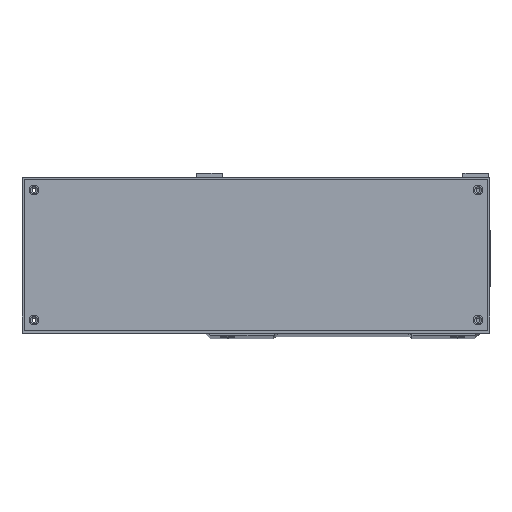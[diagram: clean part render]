
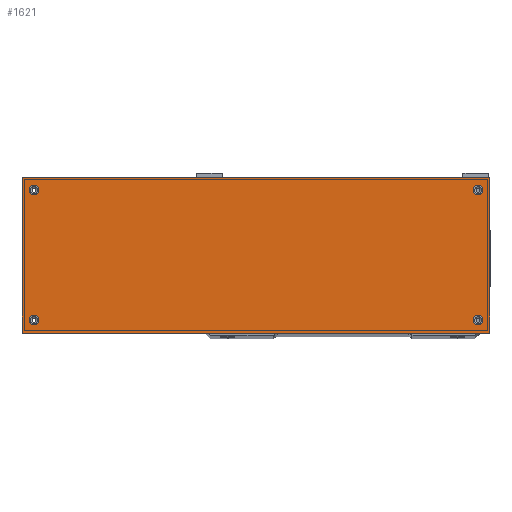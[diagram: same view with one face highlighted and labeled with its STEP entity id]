
A CAD part, top view. The second image highlights one B-rep face of the part: STEP entity #1621.
In plain terms, the highlighted planar face has unit normal (0, 0, 1).
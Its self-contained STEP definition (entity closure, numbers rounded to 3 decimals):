
#1621=ADVANCED_FACE('',(#2813,#2814,#2815,#2816,#2817),#2378,.F.);
#2378=PLANE('',#16668);
#2813=FACE_BOUND('',#3845,.T.);
#2814=FACE_BOUND('',#3846,.T.);
#2815=FACE_BOUND('',#3847,.T.);
#2816=FACE_BOUND('',#3848,.T.);
#2817=FACE_BOUND('',#3849,.T.);
#3845=EDGE_LOOP('',(#8633));
#3846=EDGE_LOOP('',(#8634));
#3847=EDGE_LOOP('',(#8635));
#3848=EDGE_LOOP('',(#8636));
#3849=EDGE_LOOP('',(#8637,#8638,#8639,#8640));
#5296=LINE('',#24856,#6418);
#5313=LINE('',#24889,#6435);
#5422=LINE('',#25800,#6544);
#5429=LINE('',#25817,#6551);
#6418=VECTOR('',#19154,1.);
#6435=VECTOR('',#19181,1.);
#6544=VECTOR('',#19632,1.);
#6551=VECTOR('',#19645,1.);
#8633=ORIENTED_EDGE('',*,*,#14064,.F.);
#8634=ORIENTED_EDGE('',*,*,#14066,.F.);
#8635=ORIENTED_EDGE('',*,*,#14068,.F.);
#8636=ORIENTED_EDGE('',*,*,#14070,.F.);
#8637=ORIENTED_EDGE('',*,*,#13830,.F.);
#8638=ORIENTED_EDGE('',*,*,#14080,.F.);
#8639=ORIENTED_EDGE('',*,*,#14071,.F.);
#8640=ORIENTED_EDGE('',*,*,#13849,.F.);
#12068=VERTEX_POINT('',#24855);
#12069=VERTEX_POINT('',#24857);
#12080=VERTEX_POINT('',#24890);
#12226=VERTEX_POINT('',#25783);
#12228=VERTEX_POINT('',#25788);
#12230=VERTEX_POINT('',#25793);
#12232=VERTEX_POINT('',#25798);
#12233=VERTEX_POINT('',#25801);
#13830=EDGE_CURVE('',#12068,#12069,#5296,.T.);
#13849=EDGE_CURVE('',#12069,#12080,#5313,.T.);
#14064=EDGE_CURVE('',#12226,#12226,#15566,.T.);
#14066=EDGE_CURVE('',#12228,#12228,#15568,.T.);
#14068=EDGE_CURVE('',#12230,#12230,#15570,.T.);
#14070=EDGE_CURVE('',#12232,#12232,#15572,.T.);
#14071=EDGE_CURVE('',#12080,#12233,#5422,.T.);
#14080=EDGE_CURVE('',#12233,#12068,#5429,.T.);
#15566=CIRCLE('',#16653,2.25);
#15568=CIRCLE('',#16656,2.25);
#15570=CIRCLE('',#16659,2.25);
#15572=CIRCLE('',#16662,2.25);
#16653=AXIS2_PLACEMENT_3D('',#25782,#19610,#19611);
#16656=AXIS2_PLACEMENT_3D('',#25787,#19616,#19617);
#16659=AXIS2_PLACEMENT_3D('',#25792,#19622,#19623);
#16662=AXIS2_PLACEMENT_3D('',#25797,#19628,#19629);
#16668=AXIS2_PLACEMENT_3D('',#25824,#19651,#19652);
#19154=DIRECTION('',(0.,-1.,0.));
#19181=DIRECTION('',(-1.,0.,0.));
#19610=DIRECTION('',(0.,0.,1.));
#19611=DIRECTION('',(-1.,0.,0.));
#19616=DIRECTION('',(0.,0.,1.));
#19617=DIRECTION('',(1.,0.,0.));
#19622=DIRECTION('',(0.,0.,1.));
#19623=DIRECTION('',(-1.,0.,0.));
#19628=DIRECTION('',(0.,0.,1.));
#19629=DIRECTION('',(1.,0.,0.));
#19632=DIRECTION('',(0.,1.,0.));
#19645=DIRECTION('',(1.,0.,0.));
#19651=DIRECTION('',(0.,0.,-1.));
#19652=DIRECTION('',(1.,0.,0.));
#24855=CARTESIAN_POINT('',(68.,72.,193.));
#24856=CARTESIAN_POINT('',(68.,72.,193.));
#24857=CARTESIAN_POINT('',(68.,0.,193.));
#24889=CARTESIAN_POINT('',(68.,0.,193.));
#24890=CARTESIAN_POINT('',(-148.,0.,193.));
#25782=CARTESIAN_POINT('',(-142.5,6.,193.));
#25783=CARTESIAN_POINT('',(-144.75,6.,193.));
#25787=CARTESIAN_POINT('',(62.5,6.,193.));
#25788=CARTESIAN_POINT('',(64.75,6.,193.));
#25792=CARTESIAN_POINT('',(62.5,66.,193.));
#25793=CARTESIAN_POINT('',(60.25,66.,193.));
#25797=CARTESIAN_POINT('',(-142.5,66.,193.));
#25798=CARTESIAN_POINT('',(-140.25,66.,193.));
#25800=CARTESIAN_POINT('',(-148.,72.,193.));
#25801=CARTESIAN_POINT('',(-148.,72.,193.));
#25817=CARTESIAN_POINT('',(68.,72.,193.));
#25824=CARTESIAN_POINT('',(-40.,36.,193.));
